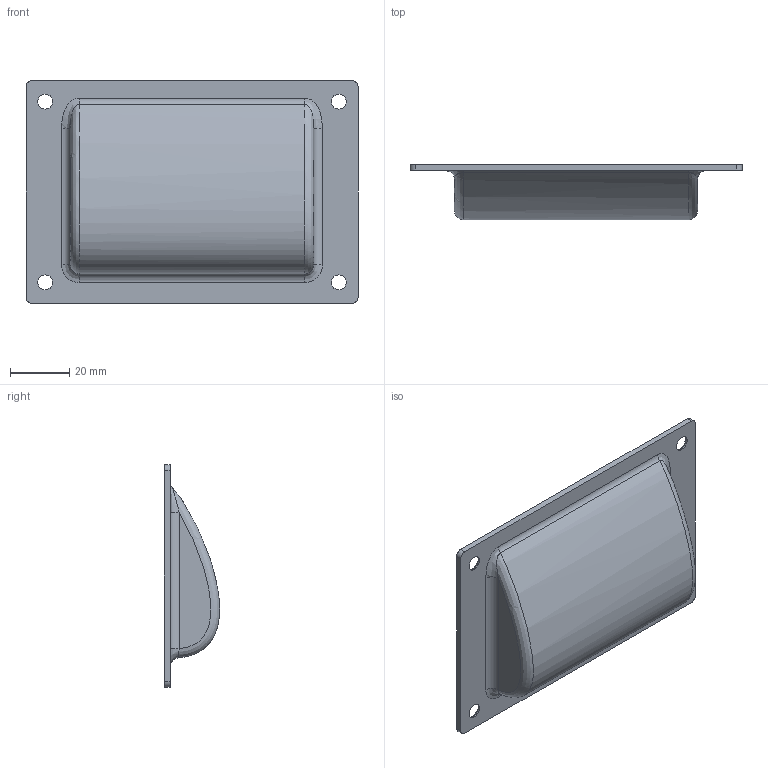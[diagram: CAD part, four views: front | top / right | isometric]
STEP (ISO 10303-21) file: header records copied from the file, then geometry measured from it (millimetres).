
FILE_DESCRIPTION (( 'STEP AP203' ), '1' );
FILE_NAME ('XG01-092.STEP', '2025-06-04T06:12:07', ( '微软用户' ), ( '微软中国' ), 'SwSTEP 2.0', 'SolidWorks 2024', '' );
FILE_SCHEMA (( 'CONFIG_CONTROL_DESIGN' ));
Length unit declared in the file: millimetre
Products named in the file (1): XG01-092
Bounding box: 112 x 18.64 x 75 mm (x, y, z)
Volume: 25208.2 mm3; surface area: 25340 mm2
Topology: 1 solids, 1 shells, 52 faces, 128 edges, 80 vertices
Faces by surface type: cylinder 20, plane 14, bspline 10, cone 8
Entity records: 3057 total; most frequent: CARTESIAN_POINT 1771, ORIENTED_EDGE 256, DIRECTION 242, EDGE_CURVE 128, AXIS2_PLACEMENT_3D 91, VERTEX_POINT 80, EDGE_LOOP 62, LINE 60
